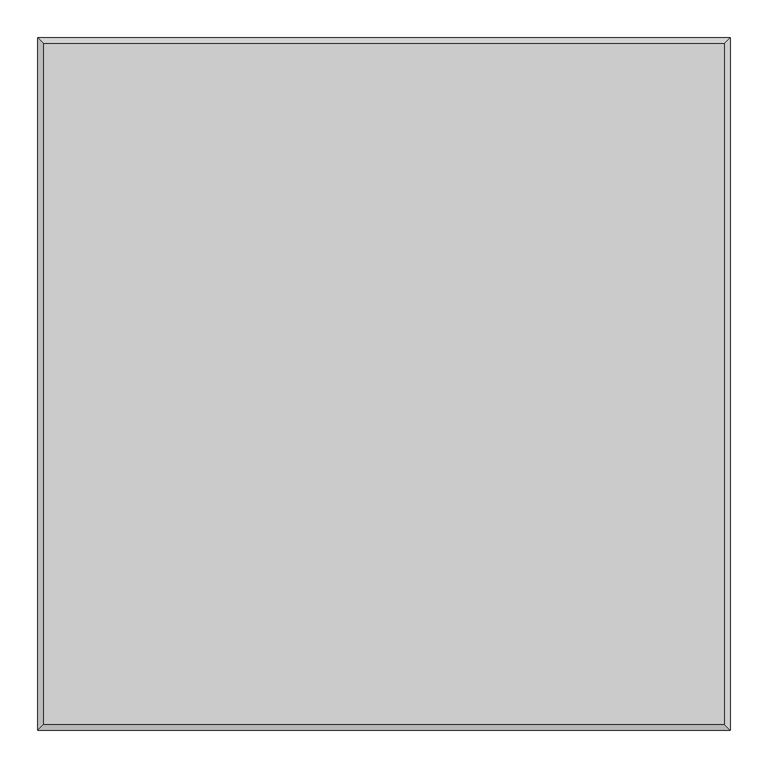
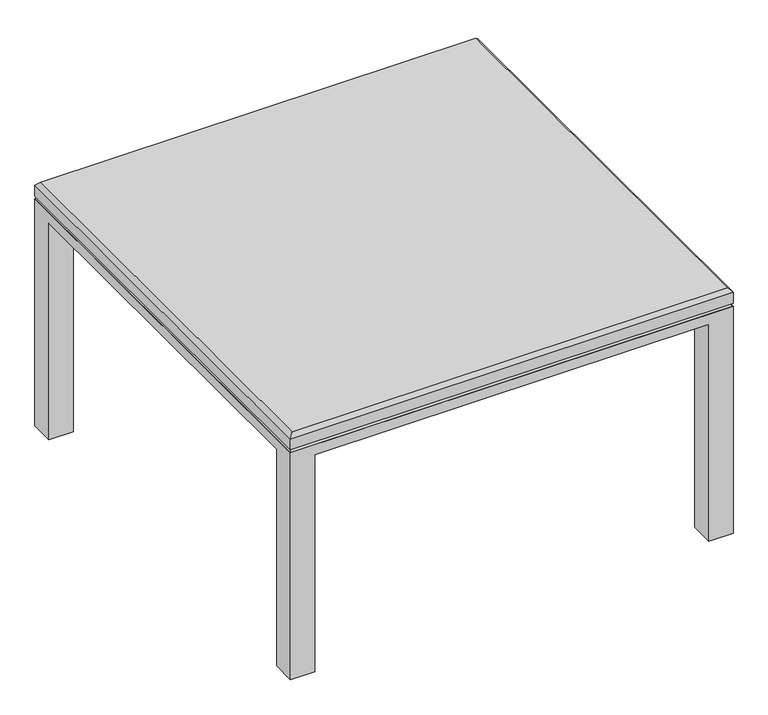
"""IFC4 building model written with IfcOpenShell, lengths in millimetres: furniture geometry, Steelcase Coalesse - Swathmore Plus - Beveled : 36D x 36W x 21H - Glass Top."""

import ifcopenshell
import ifcopenshell.guid

model = None  # the IFC model being written
_history = None  # IfcOwnerHistory: only IFC2X3 demands one
_inside = {}  # id of a spatial element -> (the spatial element, [elements in it])
_under = {}  # id of a project, library or spatial element -> (it, [spatial elements below it])
_declared = {}  # id of a project -> (the project, [libraries it declares])
_typed = {}  # id of a type object -> (the type object, [elements of that type])
_made_of = {}  # id of a material, layer set ... -> (it, [elements and type objects made of it])


def new_model(schema):
    """Start an empty IFC model of exactly this schema.

    Asked for "IFC4X3", IfcOpenShell would pick the latest addendum, in which some entities
    have other attributes; the version numbers below select the first issue.
    IFC2X3 requires an IfcOwnerHistory on every rooted entity: one is made here for all.
    """
    global model, _history
    if schema == "IFC4X3":
        model = ifcopenshell.file(schema_version=(4, 3, 0, 0))
    else:
        model = ifcopenshell.file(schema=schema)
    _inside.clear()
    _under.clear()
    _declared.clear()
    _typed.clear()
    _made_of.clear()
    _history = None
    if model.schema == "IFC2X3":
        org = make("IfcOrganization", Name="unknown")
        user = make(
            "IfcPersonAndOrganization",
            ThePerson=make("IfcPerson", FamilyName="unknown"),
            TheOrganization=org,
        )
        app = make(
            "IfcApplication",
            ApplicationDeveloper=org,
            Version="unknown",
            ApplicationFullName="unknown",
            ApplicationIdentifier="unknown",
        )
        _history = make(
            "IfcOwnerHistory",
            OwningUser=user,
            OwningApplication=app,
            ChangeAction="ADDED",
            CreationDate=0,
        )
    return model


def make(cls, **values):
    """One entity of the class cls with the attributes given. An attribute that is None is left unset."""
    return model.create_entity(
        cls, **{name: value for name, value in values.items() if value is not None}
    )


def rooted(cls, **values):
    """An entity with a GlobalId (a new one), such as an element, a storey or a relation."""
    return make(cls, GlobalId=ifcopenshell.guid.new(), OwnerHistory=_history, **values)


def si_unit(unit_type, name, prefix=None):
    """IfcSIUnit, for example si_unit("LENGTHUNIT", "METRE", prefix="MILLI")."""
    return make("IfcSIUnit", UnitType=unit_type, Prefix=prefix, Name=name)


def assignment(units):
    """IfcUnitAssignment: the units of a project."""
    return None if units is None else make("IfcUnitAssignment", Units=units)


def point(xyz):
    """IfcCartesianPoint."""
    return None if xyz is None else make("IfcCartesianPoint", Coordinates=xyz)


def direction(xyz):
    """IfcDirection."""
    return None if xyz is None else make("IfcDirection", DirectionRatios=xyz)


def frame(location, z_axis=None, x_axis=None):
    """IfcAxis2Placement3D, a coordinate frame: its origin and axes. An axis left out is left unset."""
    return make(
        "IfcAxis2Placement3D",
        Location=point(location),
        Axis=direction(z_axis),
        RefDirection=direction(x_axis),
    )


def origin():
    """The frame at (0, 0, 0) with its axes left unset."""
    return frame((0.0, 0.0, 0.0))


def place(relative_to, where):
    """IfcLocalPlacement: puts the frame where relative to a parent placement (None: the world)."""
    return make(
        "IfcLocalPlacement", PlacementRelTo=relative_to, RelativePlacement=where
    )


def context(
    kind, dimensions, precision=None, world=None, true_north=None, identifier=None
):
    """IfcGeometricRepresentationContext, for example the 3D "Model" context."""
    return make(
        "IfcGeometricRepresentationContext",
        ContextIdentifier=identifier,
        ContextType=kind,
        CoordinateSpaceDimension=dimensions,
        Precision=precision,
        WorldCoordinateSystem=world,
        TrueNorth=true_north,
    )


def project(units=None, contexts=None):
    """IfcProject with its units and contexts."""
    return rooted(
        "IfcProject",
        Name="project",
        RepresentationContexts=contexts,
        UnitsInContext=assignment(units),
    )


def spatial(cls, under=None, at=None, **own):
    """A site, building, storey or space (cls), placed at a placement, below another one or the project."""
    s = rooted(cls, ObjectPlacement=at, **own)
    if under is not None:
        _under.setdefault(under.id(), (under, []))[1].append(s)
    return s


def faces_of(points, faces, orient=None, outer=None):
    """IfcFace entities. A face is a list of loops; a loop is a list of indices into points, from 0.

    orient and outer hold one flag for each loop. By default every Orientation is true, the
    first loop of a face is its IfcFaceOuterBound and the others are IfcFaceBound.
    """
    made = []
    for i, loops in enumerate(faces):
        bounds = []
        for j, loop in enumerate(loops):
            is_outer = j == 0 if outer is None else outer[i][j]
            bounds.append(
                make(
                    "IfcFaceOuterBound" if is_outer else "IfcFaceBound",
                    Bound=make("IfcPolyLoop", Polygon=[points[k] for k in loop]),
                    Orientation=True if orient is None else orient[i][j],
                )
            )
        made.append(make("IfcFace", Bounds=bounds))
    return made


def faceted_brep(points, faces, orient=None, outer=None, voids=None):
    """IfcFacetedBrep: a solid bounded by flat faces; with voids (closed shells), ...WithVoids."""
    shared = [point(p) for p in points]
    hull = make("IfcClosedShell", CfsFaces=faces_of(shared, faces, orient, outer))
    if voids is None:
        return make("IfcFacetedBrep", Outer=hull)
    return make(
        "IfcFacetedBrepWithVoids",
        Outer=hull,
        Voids=[
            make(cls, CfsFaces=faces_of(shared, fs, o, b)) for cls, fs, o, b in voids
        ],
    )


def shape(context_of_items, identifier, shape_type, items):
    """IfcShapeRepresentation: the items that make up one representation, for example the "Body"."""
    return make(
        "IfcShapeRepresentation",
        ContextOfItems=context_of_items,
        RepresentationIdentifier=identifier,
        RepresentationType=shape_type,
        Items=items,
    )


def source(mapping_origin, context_of_items, identifier, shape_type, items):
    """IfcRepresentationMap: a shape defined once, which mapped items show again and again."""
    return make(
        "IfcRepresentationMap",
        MappingOrigin=mapping_origin,
        MappedRepresentation=shape(context_of_items, identifier, shape_type, items),
    )


def transform(
    local_origin,
    x_axis=None,
    y_axis=None,
    z_axis=None,
    scale=None,
    scale2=None,
    scale3=None,
    uniform=True,
):
    """IfcCartesianTransformationOperator3D, or its non-uniform kind. x_axis, y_axis, z_axis: its Axis1, 2, 3."""
    if uniform:
        return make(
            "IfcCartesianTransformationOperator3D",
            Axis1=direction(x_axis),
            Axis2=direction(y_axis),
            LocalOrigin=point(local_origin),
            Scale=scale,
            Axis3=direction(z_axis),
        )
    return make(
        "IfcCartesianTransformationOperator3DnonUniform",
        Axis1=direction(x_axis),
        Axis2=direction(y_axis),
        LocalOrigin=point(local_origin),
        Scale=scale,
        Axis3=direction(z_axis),
        Scale2=scale2,
        Scale3=scale3,
    )


def mapped(mapping_source, mapping_target):
    """IfcMappedItem: shows the shape of a source again, moved by a transform."""
    return make(
        "IfcMappedItem", MappingSource=mapping_source, MappingTarget=mapping_target
    )


def made_of(thing, what):
    """Note that an element or type object is made of a material, layer set ...; save() writes the relation."""
    if what is not None:
        _made_of.setdefault(what.id(), (what, []))[1].append(thing)
    return thing


def element(
    cls,
    number,
    at=None,
    inside=None,
    cuts=None,
    type_object=None,
    material=None,
    context=None,
    identifier="Body",
    shape_type=None,
    held_by="IfcProductDefinitionShape",
    body=None,
    shapes=None,
    **own,
):
    """One element of the class cls, such as IfcWall. Its Tag is "e" and its number.

    at: its placement. inside: the storey or other place that contains it. cuts: it is an
    opening in that element (IfcRelVoidsElement). A single representation is given by context,
    identifier, shape_type and body (its items); several are given by shapes. held_by: the class
    of the entity that holds the representations. save() writes the other relations.
    """
    e = rooted(cls, Tag="e%d" % number, ObjectPlacement=at, **own)
    if body is not None:
        shapes = [shape(context, identifier, shape_type, body)]
    if shapes is not None:
        e.Representation = make(held_by, Representations=shapes)
    if inside is not None:
        _inside.setdefault(inside.id(), (inside, []))[1].append(e)
    if cuts is not None:
        rooted(
            "IfcRelVoidsElement", RelatingBuildingElement=cuts, RelatedOpeningElement=e
        )
    if type_object is not None:
        _typed.setdefault(type_object.id(), (type_object, []))[1].append(e)
    return made_of(e, material)


def aggregate(whole, parts):
    """IfcRelAggregates: a whole, such as a stair, and the parts it consists of."""
    return rooted("IfcRelAggregates", RelatingObject=whole, RelatedObjects=parts)


def save(model, path):
    """Write the relations noted so far, then the file.

    IfcRelAggregates (storeys below a building ...), IfcRelContainedInSpatialStructure (elements
    in a storey), IfcRelDefinesByType, IfcRelAssociatesMaterial and IfcRelDeclares: one each for
    every whole, place, type object, material and project.
    """
    for whole, parts in _under.values():
        aggregate(whole, parts)
    for where, things in _inside.values():
        rooted(
            "IfcRelContainedInSpatialStructure",
            RelatedElements=things,
            RelatingStructure=where,
        )
    for kind, things in _typed.values():
        rooted("IfcRelDefinesByType", RelatedObjects=things, RelatingType=kind)
    for what, things in _made_of.values():
        rooted("IfcRelAssociatesMaterial", RelatedObjects=things, RelatingMaterial=what)
    for by, libraries in _declared.values():
        rooted("IfcRelDeclares", RelatingContext=by, RelatedDefinitions=libraries)
    model.write(path)


def furniture_faf52c22(model_context):
    return source(origin(), model_context, "Body", "Brep", [
        faceted_brep([(914.4, 0.0, 495.3), (0.0, 0.0, 495.3), (0.0, -914.4, 495.3), (914.4, -914.4, 495.3), (914.4, -50.1297163, 473.0750121), (914.4, -864.5013016, 473.0750121), (864.2734085, -864.5013016, 473.0750121), (864.2734085, -864.2702837, 473.0750121), (908.0498062, -864.2702837, 473.0750121), (908.0498062, -50.1297163, 473.0750121), (864.2734085, -914.4, 473.0750121), (50.1812393, -914.4, 473.0750121), (50.1812393, -864.5013016, 473.0750121), (0.0, -864.5013016, 473.0750121), (0.0, -50.1297163, 473.0750121), (6.3501938, -50.1297163, 473.0750121), (6.3501938, -864.2702837, 473.0750121), (50.8001938, -864.2702837, 473.0750121), (50.8001938, -908.0496318, 473.0750121), (864.2734085, -908.0496318, 473.0750121), (50.1812393, 0.0, 473.0750121), (864.2734085, 0.0, 473.0750121), (864.2734085, -6.3503682, 473.0750121), (50.8001938, -6.3503682, 473.0750121), (50.8001938, -50.1297163, 473.0750121), (50.1812393, -50.1297163, 473.0750121), (914.4, 0.0, 0.0), (864.2734085, 0.0, 0.0), (50.1812393, 0.0, 0.0), (0.0, 0.0, 0.0), (0.0, -50.1297163, 0.0), (0.0, -864.5013016, 0.0), (0.0, -914.4, 0.0), (50.1812393, -914.4, 0.0), (864.2734085, -914.4, 0.0), (914.4, -914.4, 0.0), (914.4, -864.5013016, 0.0), (914.4, -50.1297163, 0.0), (50.1812393, -50.1297163, 0.0), (50.1812393, -864.5013016, 0.0), (864.2734085, -50.1297163, 0.0), (864.2734085, -864.5013016, 0.0), (50.1812393, -864.5013016, 450.8499879), (864.2734085, -50.1297163, 450.8499879), (864.2734085, -28.575, 450.8499879), (885.825, -50.1297163, 450.8499879), (864.2734085, -864.5013016, 450.8499879), (864.2734085, -885.825, 450.8499879), (50.7998062, -50.8000242, 450.8499879), (50.7998062, -28.575, 450.8499879), (885.825, -864.5013016, 450.8499879), (50.1812393, -885.825, 450.8499879), (50.1812393, -864.5013016, 450.8499879), (28.5708422, -864.5013016, 450.8499879), (28.5708422, -50.8000242, 450.8499879)], [[[0, 1, 2, 3]], [[4, 5, 6, 7, 8, 9]], [[10, 11, 12, 13, 14, 15, 16, 17, 18, 19]], [[20, 21, 22, 23, 24, 25]], [[1, 0, 26, 27, 21, 20, 28, 29]], [[2, 1, 29, 30, 14, 13, 31, 32]], [[3, 2, 32, 33, 11, 10, 34, 35]], [[0, 3, 35, 36, 5, 4, 37, 26]], [[28, 38, 30, 29]], [[33, 32, 31, 39]], [[26, 37, 40, 27]], [[36, 35, 34, 41]], [[30, 38, 25, 15, 14]], [[38, 28, 20, 25]], [[33, 39, 42, 12, 11]], [[39, 31, 13, 12, 42]], [[27, 40, 43, 44, 22, 21]], [[40, 37, 4, 9, 45, 43]], [[36, 41, 46, 6, 5]], [[41, 34, 10, 19, 47, 46]], [[48, 49, 44, 43, 45, 50, 46, 47, 51, 52, 53, 54]], [[48, 54, 15, 25, 24]], [[54, 53, 16, 15]], [[53, 52, 17, 16]], [[52, 51, 18, 17]], [[51, 47, 19, 18]], [[46, 7, 6]], [[46, 50, 8, 7]], [[50, 45, 9, 8]], [[44, 49, 23, 22]], [[49, 48, 24, 23]]]),
        faceted_brep([(914.4, -914.4, 525.4625121), (914.4, -914.4, 501.6500121), (914.4, 0.0, 501.6500121), (914.4, 0.0, 525.4625121), (0.0, 0.0, 525.4625121), (0.0, 0.0, 501.6500121), (0.0, -914.4, 501.6500121), (0.0, -914.4, 525.4625121), (906.4626938, -7.9375242, 533.4), (7.9373062, -7.9375242, 533.4), (7.9373062, -906.4625484, 533.4), (906.4626938, -906.4625484, 533.4)], [[[0, 1, 2, 3]], [[4, 5, 6, 7]], [[1, 0, 7, 6]], [[2, 1, 6, 5]], [[3, 2, 5, 4]], [[8, 9, 10, 11]], [[8, 11, 0, 3]], [[11, 10, 7, 0]], [[10, 9, 4, 7]], [[9, 8, 3, 4]]]),
        faceted_brep([(914.4, 0.0, 495.3), (914.4, -914.4, 495.3), (0.0, -914.4, 495.3), (0.0, 0.0, 495.3), (908.0498062, -6.3499758, 501.6500121), (6.3501938, -6.3499758, 501.6500121), (6.3501938, -908.0496318, 501.6500121), (908.0498062, -908.0496318, 501.6500121)], [[[0, 1, 2, 3]], [[4, 5, 6, 7]], [[4, 7, 1, 0]], [[7, 6, 2, 1]], [[6, 5, 3, 2]], [[5, 4, 0, 3]]]),
    ])


if __name__ == "__main__":
    model = new_model("IFC4")
    model_context = context("Model", 3, world=origin())
    ifc_project = project(units=[si_unit("LENGTHUNIT", "METRE", prefix="MILLI")], contexts=[model_context])
    site = spatial("IfcSite", under=ifc_project)
    building = spatial("IfcBuilding", under=site)
    placement = place(None, origin())
    furniture_shape = furniture_faf52c22(model_context)
    element("IfcFurniture", 1, ObjectType="Steelcase Coalesse - Swathmore Plus - Beveled : 36D x 36W x 21H - Glass Top", at=placement, inside=building, context=model_context, shape_type="MappedRepresentation", body=[
        mapped(furniture_shape, transform((0.0, 0.0, 0.0), x_axis=(1.0, 0.0, 0.0), y_axis=(0.0, 1.0, 0.0), z_axis=(0.0, 0.0, 1.0))),
    ])
    save(model, "model.ifc")
